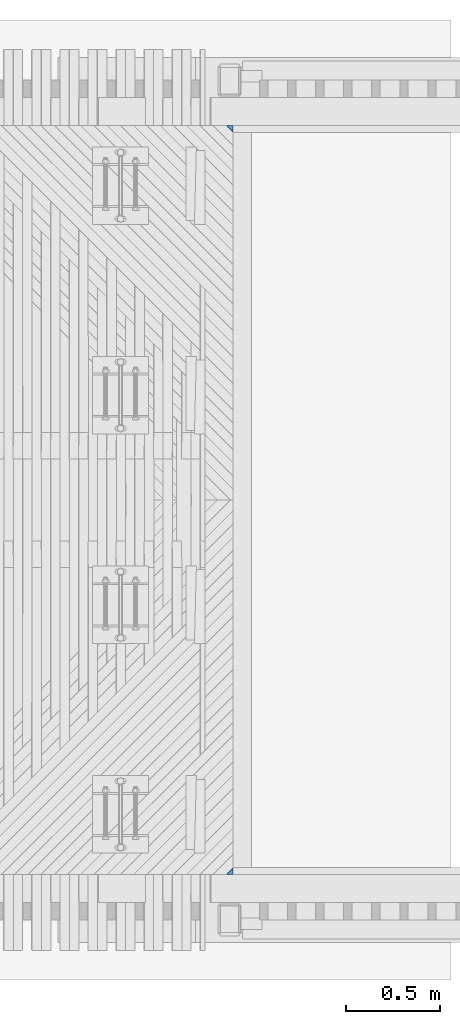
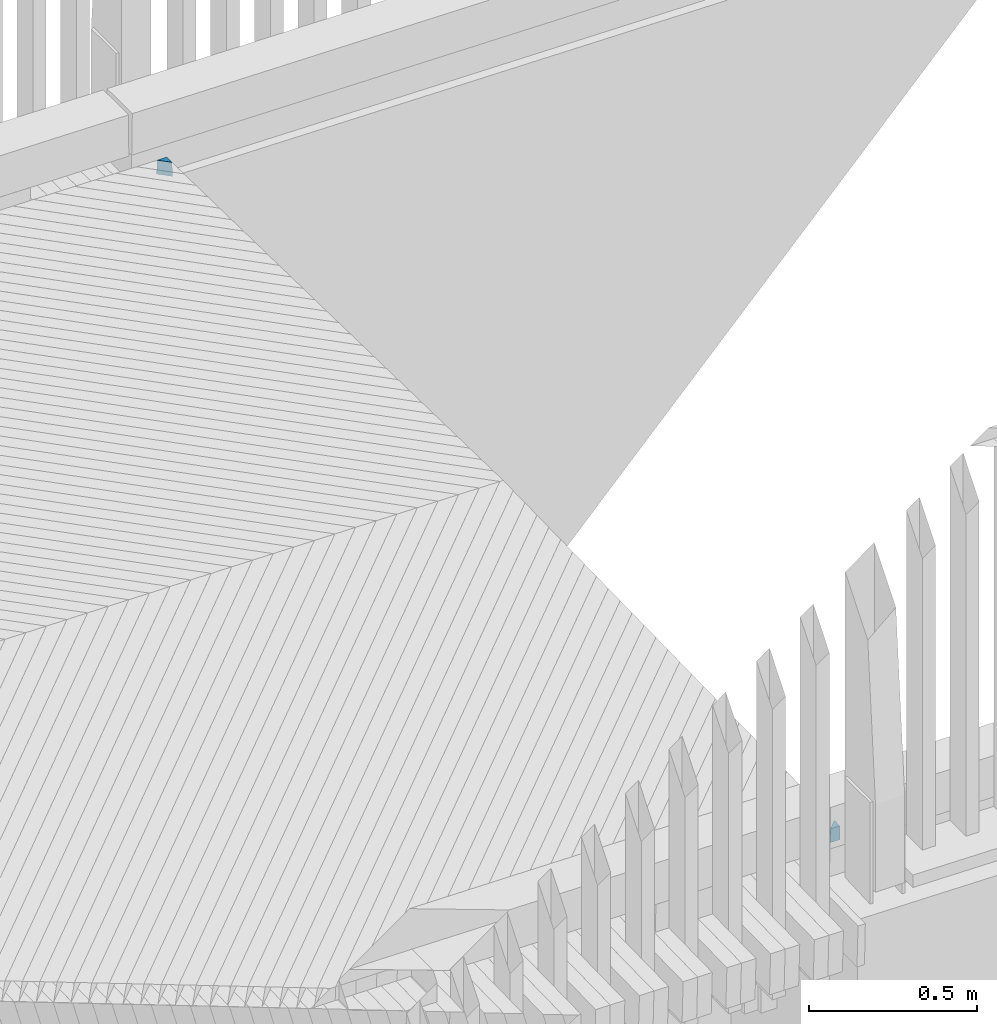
# One storey, part 47 of 47: 2 beams.
"""IFC2X3 building model written with IfcOpenShell, lengths in millimetres."""

from ifc_helpers import new_model, si_unit, frame, origin_with_axes, place, context, subcontext, project, spatial, faceted_brep, material, type_object, element, save


model = new_model("IFC2X3")

# Units and contexts
model_context = context("Model", 3, precision=1e-05, world=origin_with_axes())
body_context = subcontext(model_context, "Body", "Model", "MODEL_VIEW")
ifc_project = project(units=[si_unit("LENGTHUNIT", "METRE", prefix="MILLI"), si_unit("AREAUNIT", "SQUARE_METRE"), si_unit("VOLUMEUNIT", "CUBIC_METRE"), si_unit("MASSUNIT", "GRAM", prefix="KILO"), si_unit("TIMEUNIT", "SECOND"), si_unit("PLANEANGLEUNIT", "RADIAN"), si_unit("SOLIDANGLEUNIT", "STERADIAN"), si_unit("THERMODYNAMICTEMPERATUREUNIT", "DEGREE_CELSIUS"), si_unit("LUMINOUSINTENSITYUNIT", "LUMEN")], contexts=[model_context])

# Site, building, storey
site_placement = place(None, origin_with_axes())
site = spatial("IfcSite", under=ifc_project, at=site_placement, Name="Undefined", CompositionType="ELEMENT")
building_placement = place(site_placement, origin_with_axes())
building = spatial("IfcBuilding", under=site, at=building_placement, Name="Undefined", CompositionType="ELEMENT")
storey_placement = place(building_placement, origin_with_axes())
storey = spatial("IfcBuildingStorey", under=building, at=storey_placement, Name="Undefined", CompositionType="ELEMENT", Elevation=0.0)

# Beams
ifc_material = material(Name="TIMBER/Timber_Undefined")
beam_type = type_object("IfcBeamType", Name="50*50", PredefinedType="NOTDEFINED")
beam_1_placement = place(storey_placement, frame((18602.4451192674, 62364.5001003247, 3142.76655719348), z_axis=(0.706778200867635, -0.706981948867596, -0.0253199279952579), x_axis=(-0.707258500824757, -0.706948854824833, -0.00295460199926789)))
element("IfcBeam", 1, at=beam_1_placement, inside=storey, type_object=beam_type, material=ifc_material, Name="BEAM", ObjectType="50*50", context=body_context, shape_type="Brep", body=[
    faceted_brep([(2854.34301907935, 24.9999999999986, -24.9999999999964), (2805.73564804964, 24.9999999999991, -24.9999999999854), (2830.03050958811, 24.9999999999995, -0.688628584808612), (2852.92877373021, -25.0000000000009, -24.9999999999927), (2829.88273146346, -25.0000000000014, -1.95503652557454), (2806.85341784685, -25.0000000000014, -24.9999999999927)], [[[0, 1, 2]], [[3, 0, 2, 4]], [[3, 4, 5]], [[0, 3, 5, 1]], [[4, 2, 1, 5]]]),
])
beam_2_placement = place(storey_placement, frame((18602.4451192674, 62365.4998996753, 3142.76655719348), z_axis=(0.706778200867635, 0.706981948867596, -0.0253199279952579), x_axis=(-0.707258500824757, 0.706948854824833, -0.00295460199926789)))
element("IfcBeam", 2, at=beam_2_placement, inside=storey, type_object=beam_type, material=ifc_material, Name="BEAM", ObjectType="50*50", context=body_context, shape_type="Brep", body=[
    faceted_brep([(2854.34301907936, -24.9999999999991, -25.0), (2852.92877373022, 25.0000000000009, -25.0), (2829.88273146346, 25.0000000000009, -1.95503652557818), (2830.03050958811, -24.9999999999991, -0.688628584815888), (2805.73564804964, -24.9999999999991, -25.0), (2806.85341784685, 25.0000000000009, -25.0)], [[[0, 1, 2, 3]], [[0, 3, 4]], [[1, 0, 4, 5]], [[1, 5, 2]], [[4, 3, 2, 5]]]),
])

save(model, "model.ifc")
